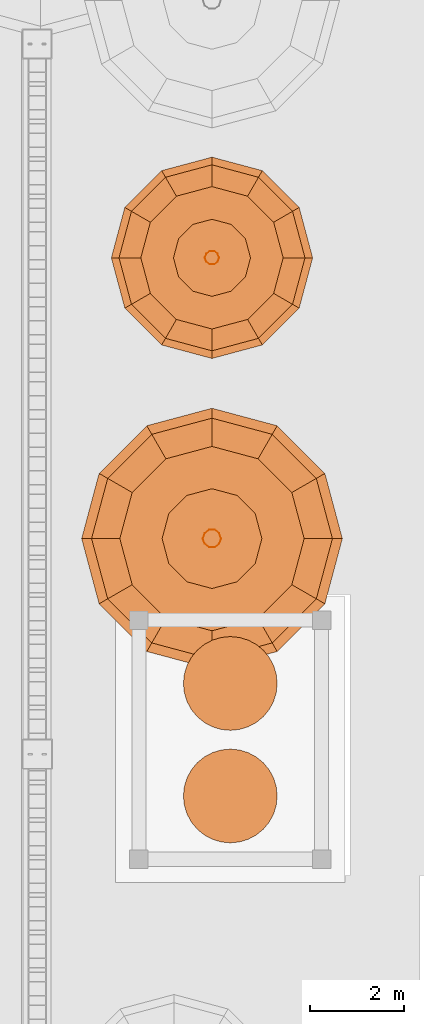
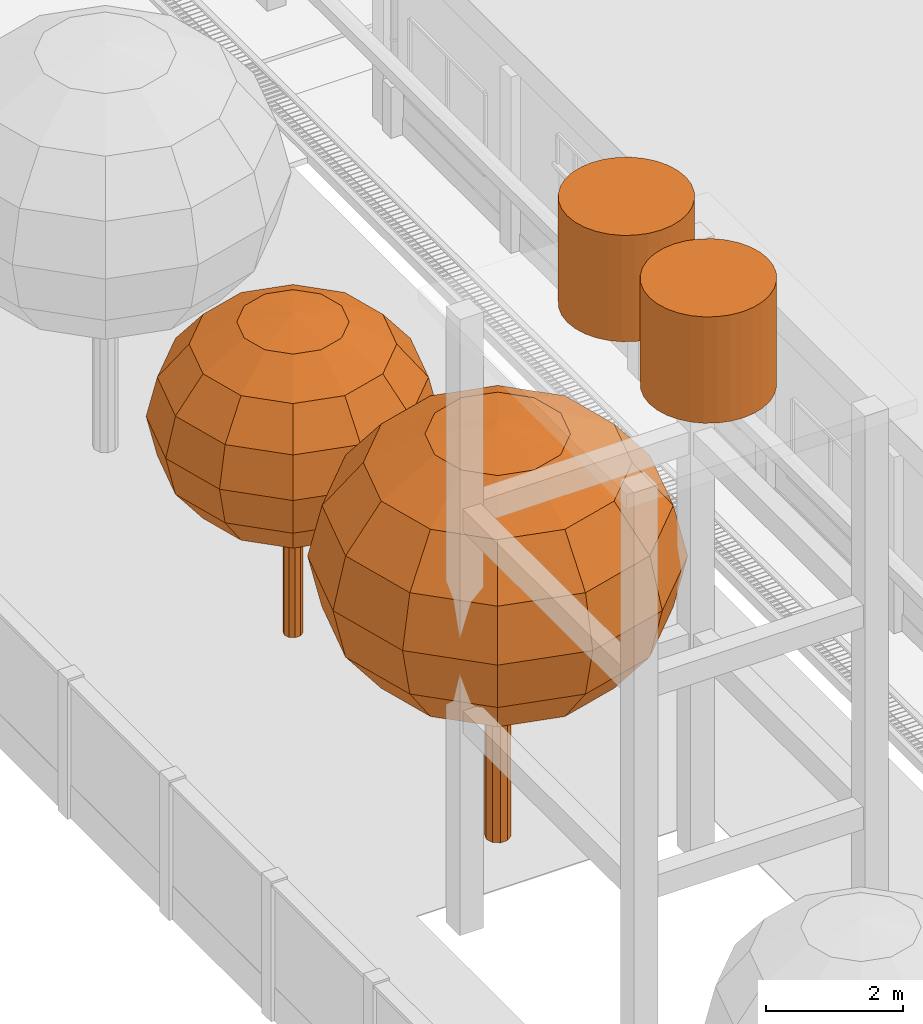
# One storey, part 147 of 166: 6 proxies.
"""IFC2X3 building model written with IfcOpenShell, lengths in metres."""

from ifc_helpers import new_model, si_unit, origin, origin_with_axes, place, context, subcontext, project, spatial, faceted_brep, element, save


model = new_model("IFC2X3")

# Units and contexts
model_context = context("Model", 3, precision=1e-05, world=origin_with_axes())
body_context = subcontext(model_context, "Body", "Model", "MODEL_VIEW")
ifc_project = project(units=[si_unit("LENGTHUNIT", "METRE"), si_unit("AREAUNIT", "SQUARE_METRE"), si_unit("VOLUMEUNIT", "CUBIC_METRE"), si_unit("PLANEANGLEUNIT", "RADIAN")], contexts=[model_context])

# Site, building, storey
site_placement = place(None, origin_with_axes())
site = spatial("IfcSite", under=ifc_project, at=site_placement, Name="Predio Los Mangos - Morales, San Martín", CompositionType="ELEMENT")
building_placement = place(site_placement, origin())
building = spatial("IfcBuilding", under=site, at=building_placement, Name="Hogar de Refugio Temporal", CompositionType="ELEMENT")
storey_placement = place(building_placement, origin())
storey = spatial("IfcBuildingStorey", under=building, at=storey_placement, Name="NIVEL 1 (NPT +0.00)", CompositionType="ELEMENT", Elevation=0.0)

# Proxies
proxy_1_placement = place(storey_placement, origin())
element("IfcBuildingElementProxy", 1, at=proxy_1_placement, inside=storey, Name="Cylinder", ObjectType="Elemento", context=body_context, shape_type="Brep", body=[
    faceted_brep([(6.55, 27.75, 11.25), (6.55, 27.75, 13.15), (6.7451, 27.7308, 13.15), (6.7451, 27.7308, 11.25), (6.9327, 27.6739, 13.15), (6.9327, 27.6739, 11.25), (7.1056, 27.5815, 13.15), (7.1056, 27.5815, 11.25), (7.2571, 27.4571, 13.15), (7.2571, 27.4571, 11.25), (7.3815, 27.3056, 13.15), (7.3815, 27.3056, 11.25), (7.4739, 27.1327, 13.15), (7.4739, 27.1327, 11.25), (7.5308, 26.9451, 13.15), (7.5308, 26.9451, 11.25), (7.55, 26.75, 13.15), (7.55, 26.75, 11.25), (7.5308, 26.5549, 13.15), (7.5308, 26.5549, 11.25), (7.4739, 26.3673, 13.15), (7.4739, 26.3673, 11.25), (7.3815, 26.1944, 13.15), (7.3815, 26.1944, 11.25), (7.2571, 26.0429, 13.15), (7.2571, 26.0429, 11.25), (7.1056, 25.9185, 13.15), (7.1056, 25.9185, 11.25), (6.9327, 25.8261, 13.15), (6.9327, 25.8261, 11.25), (6.7451, 25.7692, 13.15), (6.7451, 25.7692, 11.25), (6.55, 25.75, 13.15), (6.55, 25.75, 11.25), (6.3549, 25.7692, 13.15), (6.3549, 25.7692, 11.25), (6.1673, 25.8261, 13.15), (6.1673, 25.8261, 11.25), (5.9944, 25.9185, 13.15), (5.9944, 25.9185, 11.25), (5.8429, 26.0429, 13.15), (5.8429, 26.0429, 11.25), (5.7185, 26.1944, 13.15), (5.7185, 26.1944, 11.25), (5.6261, 26.3673, 13.15), (5.6261, 26.3673, 11.25), (5.5692, 26.5549, 13.15), (5.5692, 26.5549, 11.25), (5.55, 26.75, 13.15), (5.55, 26.75, 11.25), (5.5692, 26.9451, 13.15), (5.5692, 26.9451, 11.25), (5.6261, 27.1327, 13.15), (5.6261, 27.1327, 11.25), (5.7185, 27.3056, 13.15), (5.7185, 27.3056, 11.25), (5.8429, 27.4571, 13.15), (5.8429, 27.4571, 11.25), (5.9944, 27.5815, 13.15), (5.9944, 27.5815, 11.25), (6.1673, 27.6739, 13.15), (6.1673, 27.6739, 11.25), (6.3549, 27.7308, 13.15), (6.3549, 27.7308, 11.25)], [[[0, 1, 2, 3]], [[3, 2, 4, 5]], [[5, 4, 6, 7]], [[7, 6, 8, 9]], [[9, 8, 10, 11]], [[11, 10, 12, 13]], [[13, 12, 14, 15]], [[15, 14, 16, 17]], [[17, 16, 18, 19]], [[19, 18, 20, 21]], [[21, 20, 22, 23]], [[23, 22, 24, 25]], [[25, 24, 26, 27]], [[27, 26, 28, 29]], [[29, 28, 30, 31]], [[31, 30, 32, 33]], [[33, 32, 34, 35]], [[35, 34, 36, 37]], [[37, 36, 38, 39]], [[39, 38, 40, 41]], [[41, 40, 42, 43]], [[43, 42, 44, 45]], [[45, 44, 46, 47]], [[47, 46, 48, 49]], [[49, 48, 50, 51]], [[51, 50, 52, 53]], [[53, 52, 54, 55]], [[55, 54, 56, 57]], [[57, 56, 58, 59]], [[59, 58, 60, 61]], [[2, 1, 62, 60, 58, 56, 54, 52, 50, 48, 46, 44, 42, 40, 38, 36, 34, 32, 30, 28, 26, 24, 22, 20, 18, 16, 14, 12, 10, 8, 6, 4]], [[61, 60, 62, 63]], [[63, 62, 1, 0]], [[0, 3, 5, 7, 9, 11, 13, 15, 17, 19, 21, 23, 25, 27, 29, 31, 33, 35, 37, 39, 41, 43, 45, 47, 49, 51, 53, 55, 57, 59, 61, 63]]]),
])
proxy_2_placement = place(storey_placement, origin())
element("IfcBuildingElementProxy", 2, at=proxy_2_placement, inside=storey, Name="Cylinder", ObjectType="Elemento", context=body_context, shape_type="Brep", body=[
    faceted_brep([(6.55, 30.15, 11.25), (6.55, 30.15, 13.15), (6.7451, 30.1308, 13.15), (6.7451, 30.1308, 11.25), (6.9327, 30.0739, 13.15), (6.9327, 30.0739, 11.25), (7.1056, 29.9815, 13.15), (7.1056, 29.9815, 11.25), (7.2571, 29.8571, 13.15), (7.2571, 29.8571, 11.25), (7.3815, 29.7056, 13.15), (7.3815, 29.7056, 11.25), (7.4739, 29.5327, 13.15), (7.4739, 29.5327, 11.25), (7.5308, 29.3451, 13.15), (7.5308, 29.3451, 11.25), (7.55, 29.15, 13.15), (7.55, 29.15, 11.25), (7.5308, 28.9549, 13.15), (7.5308, 28.9549, 11.25), (7.4739, 28.7673, 13.15), (7.4739, 28.7673, 11.25), (7.3815, 28.5944, 13.15), (7.3815, 28.5944, 11.25), (7.2571, 28.4429, 13.15), (7.2571, 28.4429, 11.25), (7.1056, 28.3185, 13.15), (7.1056, 28.3185, 11.25), (6.9327, 28.2261, 13.15), (6.9327, 28.2261, 11.25), (6.7451, 28.1692, 13.15), (6.7451, 28.1692, 11.25), (6.55, 28.15, 13.15), (6.55, 28.15, 11.25), (6.3549, 28.1692, 13.15), (6.3549, 28.1692, 11.25), (6.1673, 28.2261, 13.15), (6.1673, 28.2261, 11.25), (5.9944, 28.3185, 13.15), (5.9944, 28.3185, 11.25), (5.8429, 28.4429, 13.15), (5.8429, 28.4429, 11.25), (5.7185, 28.5944, 13.15), (5.7185, 28.5944, 11.25), (5.6261, 28.7673, 13.15), (5.6261, 28.7673, 11.25), (5.5692, 28.9549, 13.15), (5.5692, 28.9549, 11.25), (5.55, 29.15, 13.15), (5.55, 29.15, 11.25), (5.5692, 29.3451, 13.15), (5.5692, 29.3451, 11.25), (5.6261, 29.5327, 13.15), (5.6261, 29.5327, 11.25), (5.7185, 29.7056, 13.15), (5.7185, 29.7056, 11.25), (5.8429, 29.8571, 13.15), (5.8429, 29.8571, 11.25), (5.9944, 29.9815, 13.15), (5.9944, 29.9815, 11.25), (6.1673, 30.0739, 13.15), (6.1673, 30.0739, 11.25), (6.3549, 30.1308, 13.15), (6.3549, 30.1308, 11.25)], [[[0, 1, 2, 3]], [[3, 2, 4, 5]], [[5, 4, 6, 7]], [[7, 6, 8, 9]], [[9, 8, 10, 11]], [[11, 10, 12, 13]], [[13, 12, 14, 15]], [[15, 14, 16, 17]], [[17, 16, 18, 19]], [[19, 18, 20, 21]], [[21, 20, 22, 23]], [[23, 22, 24, 25]], [[25, 24, 26, 27]], [[27, 26, 28, 29]], [[29, 28, 30, 31]], [[31, 30, 32, 33]], [[33, 32, 34, 35]], [[35, 34, 36, 37]], [[37, 36, 38, 39]], [[39, 38, 40, 41]], [[41, 40, 42, 43]], [[43, 42, 44, 45]], [[45, 44, 46, 47]], [[47, 46, 48, 49]], [[49, 48, 50, 51]], [[51, 50, 52, 53]], [[53, 52, 54, 55]], [[55, 54, 56, 57]], [[57, 56, 58, 59]], [[59, 58, 60, 61]], [[2, 1, 62, 60, 58, 56, 54, 52, 50, 48, 46, 44, 42, 40, 38, 36, 34, 32, 30, 28, 26, 24, 22, 20, 18, 16, 14, 12, 10, 8, 6, 4]], [[61, 60, 62, 63]], [[63, 62, 1, 0]], [[0, 3, 5, 7, 9, 11, 13, 15, 17, 19, 21, 23, 25, 27, 29, 31, 33, 35, 37, 39, 41, 43, 45, 47, 49, 51, 53, 55, 57, 59, 61, 63]]]),
])
proxy_3_placement = place(storey_placement, origin())
element("IfcBuildingElementProxy", 3, at=proxy_3_placement, inside=storey, Name="arbol_tronco", ObjectType="Árbol", context=body_context, shape_type="Brep", body=[
    faceted_brep([(6.3094, 38.23, 0.0), (6.2809, 38.3178, 0.0), (6.2809, 38.3178, 2.2407), (6.2062, 38.3721, 0.0), (6.2062, 38.3721, 2.2407), (6.1138, 38.3721, 0.0), (6.1138, 38.3721, 2.2407), (6.0391, 38.3178, 0.0), (6.0391, 38.3178, 2.2407), (6.0106, 38.23, 0.0), (6.0106, 38.23, 2.2407), (6.0391, 38.1422, 0.0), (6.0391, 38.1422, 2.2407), (6.1138, 38.0879, 0.0), (6.1138, 38.0879, 2.2407), (6.2062, 38.0879, 0.0), (6.2062, 38.0879, 2.2407), (6.2809, 38.1422, 0.0), (6.2809, 38.1422, 2.2407), (6.3094, 38.23, 2.2407)], [[[0, 1, 2]], [[1, 3, 4]], [[3, 5, 6]], [[5, 7, 8]], [[7, 9, 10]], [[9, 11, 12]], [[11, 13, 14]], [[13, 15, 16]], [[15, 17, 18]], [[17, 0, 19]], [[0, 2, 19]], [[1, 4, 2]], [[3, 6, 4]], [[5, 8, 6]], [[7, 10, 8]], [[9, 12, 10]], [[11, 14, 12]], [[13, 16, 14]], [[15, 18, 16]], [[17, 19, 18]]]),
])
proxy_4_placement = place(storey_placement, origin())
element("IfcBuildingElementProxy", 4, at=proxy_4_placement, inside=storey, Name="arbol_copa", ObjectType="Árbol", context=body_context, shape_type="Brep", body=[
    faceted_brep([(6.16, 38.23, 5.6765), (6.16, 38.23, 5.6765), (6.8717, 38.6409, 5.5376), (6.9818, 38.23, 5.5376), (6.16, 38.23, 5.6765), (6.5709, 38.9417, 5.5376), (6.16, 38.23, 5.6765), (6.16, 39.0518, 5.5376), (6.16, 38.23, 5.6765), (5.7491, 38.9417, 5.5376), (6.16, 38.23, 5.6765), (5.4483, 38.6409, 5.5376), (6.16, 38.23, 5.6765), (5.3382, 38.23, 5.5376), (6.16, 38.23, 5.6765), (5.4483, 37.8191, 5.5376), (6.16, 38.23, 5.6765), (5.7491, 37.5183, 5.5376), (6.16, 38.23, 5.6765), (6.16, 37.4082, 5.5376), (6.16, 38.23, 5.6765), (6.5709, 37.5183, 5.5376), (6.16, 38.23, 5.6765), (6.8717, 37.8191, 5.5376), (7.475, 38.9892, 5.1419), (7.6784, 38.23, 5.1419), (6.9192, 39.545, 5.1419), (6.16, 39.7484, 5.1419), (5.4008, 39.545, 5.1419), (4.845, 38.9892, 5.1419), (4.6416, 38.23, 5.1419), (4.845, 37.4708, 5.1419), (5.4008, 36.915, 5.1419), (6.16, 36.7116, 5.1419), (6.9192, 36.915, 5.1419), (7.475, 37.4708, 5.1419), (7.8781, 39.222, 4.5498), (8.1439, 38.23, 4.5498), (7.152, 39.9481, 4.5498), (6.16, 40.2139, 4.5498), (5.168, 39.9481, 4.5498), (4.4419, 39.222, 4.5498), (4.1761, 38.23, 4.5498), (4.4419, 37.238, 4.5498), (5.168, 36.5119, 4.5498), (6.16, 36.2461, 4.5498), (7.152, 36.5119, 4.5498), (7.8781, 37.238, 4.5498), (8.0197, 39.3037, 3.8513), (8.3074, 38.23, 3.8513), (7.2337, 40.0897, 3.8513), (6.16, 40.3774, 3.8513), (5.0863, 40.0897, 3.8513), (4.3003, 39.3037, 3.8513), (4.0126, 38.23, 3.8513), (4.3003, 37.1563, 3.8513), (5.0863, 36.3703, 3.8513), (6.16, 36.0826, 3.8513), (7.2337, 36.3703, 3.8513), (8.0197, 37.1563, 3.8513), (7.8781, 39.222, 3.1528), (8.1439, 38.23, 3.1528), (7.152, 39.9481, 3.1528), (6.16, 40.2139, 3.1528), (5.168, 39.9481, 3.1528), (4.4419, 39.222, 3.1528), (4.1761, 38.23, 3.1528), (4.4419, 37.238, 3.1528), (5.168, 36.5119, 3.1528), (6.16, 36.2461, 3.1528), (7.152, 36.5119, 3.1528), (7.8781, 37.238, 3.1528), (7.475, 38.9892, 2.5606), (7.6784, 38.23, 2.5606), (6.9192, 39.545, 2.5606), (6.16, 39.7484, 2.5606), (5.4008, 39.545, 2.5606), (4.845, 38.9892, 2.5606), (4.6416, 38.23, 2.5606), (4.845, 37.4708, 2.5606), (5.4008, 36.915, 2.5606), (6.16, 36.7116, 2.5606), (6.9192, 36.915, 2.5606), (7.475, 37.4708, 2.5606), (6.8717, 38.6409, 2.1649), (6.9818, 38.23, 2.1649), (6.5709, 38.9417, 2.1649), (6.16, 39.0518, 2.1649), (5.7491, 38.9417, 2.1649), (5.4483, 38.6409, 2.1649), (5.3382, 38.23, 2.1649), (5.4483, 37.8191, 2.1649), (5.7491, 37.5183, 2.1649), (6.16, 37.4082, 2.1649), (6.5709, 37.5183, 2.1649), (6.8717, 37.8191, 2.1649), (6.16, 38.23, 2.026), (6.16, 38.23, 2.026), (6.16, 38.23, 2.026), (6.16, 38.23, 2.026), (6.16, 38.23, 2.026), (6.16, 38.23, 2.026), (6.16, 38.23, 2.026), (6.16, 38.23, 2.026), (6.16, 38.23, 2.026), (6.16, 38.23, 2.026), (6.16, 38.23, 2.026), (6.16, 38.23, 2.026)], [[[0, 1, 2]], [[0, 2, 3]], [[1, 4, 5]], [[1, 5, 2]], [[4, 6, 7]], [[4, 7, 5]], [[6, 8, 9]], [[6, 9, 7]], [[8, 10, 11]], [[8, 11, 9]], [[10, 12, 13]], [[10, 13, 11]], [[12, 14, 15]], [[12, 15, 13]], [[14, 16, 17]], [[14, 17, 15]], [[16, 18, 19]], [[16, 19, 17]], [[18, 20, 21]], [[18, 21, 19]], [[20, 22, 23]], [[20, 23, 21]], [[22, 0, 3]], [[22, 3, 23]], [[3, 2, 24]], [[3, 24, 25]], [[2, 5, 26]], [[2, 26, 24]], [[5, 7, 27]], [[5, 27, 26]], [[7, 9, 28]], [[7, 28, 27]], [[9, 11, 29]], [[9, 29, 28]], [[11, 13, 30]], [[11, 30, 29]], [[13, 15, 31]], [[13, 31, 30]], [[15, 17, 32]], [[15, 32, 31]], [[17, 19, 33]], [[17, 33, 32]], [[19, 21, 34]], [[19, 34, 33]], [[21, 23, 35]], [[21, 35, 34]], [[23, 3, 25]], [[23, 25, 35]], [[25, 24, 36]], [[25, 36, 37]], [[24, 26, 38]], [[24, 38, 36]], [[26, 27, 39]], [[26, 39, 38]], [[27, 28, 40]], [[27, 40, 39]], [[28, 29, 41]], [[28, 41, 40]], [[29, 30, 42]], [[29, 42, 41]], [[30, 31, 43]], [[30, 43, 42]], [[31, 32, 44]], [[31, 44, 43]], [[32, 33, 45]], [[32, 45, 44]], [[33, 34, 46]], [[33, 46, 45]], [[34, 35, 47]], [[34, 47, 46]], [[35, 25, 37]], [[35, 37, 47]], [[37, 36, 48]], [[37, 48, 49]], [[36, 38, 50]], [[36, 50, 48]], [[38, 39, 51]], [[38, 51, 50]], [[39, 40, 52]], [[39, 52, 51]], [[40, 41, 53]], [[40, 53, 52]], [[41, 42, 54]], [[41, 54, 53]], [[42, 43, 55]], [[42, 55, 54]], [[43, 44, 56]], [[43, 56, 55]], [[44, 45, 57]], [[44, 57, 56]], [[45, 46, 58]], [[45, 58, 57]], [[46, 47, 59]], [[46, 59, 58]], [[47, 37, 49]], [[47, 49, 59]], [[49, 48, 60]], [[49, 60, 61]], [[48, 50, 62]], [[48, 62, 60]], [[50, 51, 63]], [[50, 63, 62]], [[51, 52, 64]], [[51, 64, 63]], [[52, 53, 65]], [[52, 65, 64]], [[53, 54, 66]], [[53, 66, 65]], [[54, 55, 67]], [[54, 67, 66]], [[55, 56, 68]], [[55, 68, 67]], [[56, 57, 69]], [[56, 69, 68]], [[57, 58, 70]], [[57, 70, 69]], [[58, 59, 71]], [[58, 71, 70]], [[59, 49, 61]], [[59, 61, 71]], [[61, 60, 72]], [[61, 72, 73]], [[60, 62, 74]], [[60, 74, 72]], [[62, 63, 75]], [[62, 75, 74]], [[63, 64, 76]], [[63, 76, 75]], [[64, 65, 77]], [[64, 77, 76]], [[65, 66, 78]], [[65, 78, 77]], [[66, 67, 79]], [[66, 79, 78]], [[67, 68, 80]], [[67, 80, 79]], [[68, 69, 81]], [[68, 81, 80]], [[69, 70, 82]], [[69, 82, 81]], [[70, 71, 83]], [[70, 83, 82]], [[71, 61, 73]], [[71, 73, 83]], [[73, 72, 84]], [[73, 84, 85]], [[72, 74, 86]], [[72, 86, 84]], [[74, 75, 87]], [[74, 87, 86]], [[75, 76, 88]], [[75, 88, 87]], [[76, 77, 89]], [[76, 89, 88]], [[77, 78, 90]], [[77, 90, 89]], [[78, 79, 91]], [[78, 91, 90]], [[79, 80, 92]], [[79, 92, 91]], [[80, 81, 93]], [[80, 93, 92]], [[81, 82, 94]], [[81, 94, 93]], [[82, 83, 95]], [[82, 95, 94]], [[83, 73, 85]], [[83, 85, 95]], [[85, 84, 96]], [[85, 96, 97]], [[84, 86, 98]], [[84, 98, 96]], [[86, 87, 99]], [[86, 99, 98]], [[87, 88, 100]], [[87, 100, 99]], [[88, 89, 101]], [[88, 101, 100]], [[89, 90, 102]], [[89, 102, 101]], [[90, 91, 103]], [[90, 103, 102]], [[91, 92, 104]], [[91, 104, 103]], [[92, 93, 105]], [[92, 105, 104]], [[93, 94, 106]], [[93, 106, 105]], [[94, 95, 107]], [[94, 107, 106]], [[95, 85, 97]], [[95, 97, 107]]]),
])
proxy_5_placement = place(storey_placement, origin())
element("IfcBuildingElementProxy", 5, at=proxy_5_placement, inside=storey, Name="arbol_tronco", ObjectType="Árbol", context=body_context, shape_type="Brep", body=[
    faceted_brep([(6.3534, 32.24, 0.0), (6.3165, 32.3537, 0.0), (6.3165, 32.3537, 2.9016), (6.2198, 32.424, 0.0), (6.2198, 32.424, 2.9016), (6.1002, 32.424, 0.0), (6.1002, 32.424, 2.9016), (6.0035, 32.3537, 0.0), (6.0035, 32.3537, 2.9016), (5.9666, 32.24, 0.0), (5.9666, 32.24, 2.9016), (6.0035, 32.1263, 0.0), (6.0035, 32.1263, 2.9016), (6.1002, 32.056, 0.0), (6.1002, 32.056, 2.9016), (6.2198, 32.056, 0.0), (6.2198, 32.056, 2.9016), (6.3165, 32.1263, 0.0), (6.3165, 32.1263, 2.9016), (6.3534, 32.24, 2.9016)], [[[0, 1, 2]], [[1, 3, 4]], [[3, 5, 6]], [[5, 7, 8]], [[7, 9, 10]], [[9, 11, 12]], [[11, 13, 14]], [[13, 15, 16]], [[15, 17, 18]], [[17, 0, 19]], [[0, 2, 19]], [[1, 4, 2]], [[3, 6, 4]], [[5, 8, 6]], [[7, 10, 8]], [[9, 12, 10]], [[11, 14, 12]], [[13, 16, 14]], [[15, 18, 16]], [[17, 19, 18]]]),
])
proxy_6_placement = place(storey_placement, origin())
element("IfcBuildingElementProxy", 6, at=proxy_6_placement, inside=storey, Name="arbol_copa", ObjectType="Árbol", context=body_context, shape_type="Brep", body=[
    faceted_brep([(6.16, 32.24, 7.3508), (6.16, 32.24, 7.3508), (7.0816, 32.7721, 7.1709), (7.2241, 32.24, 7.1709), (6.16, 32.24, 7.3508), (6.6921, 33.1616, 7.1709), (6.16, 32.24, 7.3508), (6.16, 33.3041, 7.1709), (6.16, 32.24, 7.3508), (5.6279, 33.1616, 7.1709), (6.16, 32.24, 7.3508), (5.2384, 32.7721, 7.1709), (6.16, 32.24, 7.3508), (5.0959, 32.24, 7.1709), (6.16, 32.24, 7.3508), (5.2384, 31.7079, 7.1709), (6.16, 32.24, 7.3508), (5.6279, 31.3184, 7.1709), (6.16, 32.24, 7.3508), (6.16, 31.1759, 7.1709), (6.16, 32.24, 7.3508), (6.6921, 31.3184, 7.1709), (6.16, 32.24, 7.3508), (7.0816, 31.7079, 7.1709), (7.8628, 33.2231, 6.6585), (8.1263, 32.24, 6.6585), (7.1431, 33.9428, 6.6585), (6.16, 34.2063, 6.6585), (5.1769, 33.9428, 6.6585), (4.4572, 33.2231, 6.6585), (4.1937, 32.24, 6.6585), (4.4572, 31.2569, 6.6585), (5.1769, 30.5372, 6.6585), (6.16, 30.2737, 6.6585), (7.1431, 30.5372, 6.6585), (7.8628, 31.2569, 6.6585), (8.3849, 33.5245, 5.8917), (8.7291, 32.24, 5.8917), (7.4445, 34.4649, 5.8917), (6.16, 34.8091, 5.8917), (4.8755, 34.4649, 5.8917), (3.9351, 33.5245, 5.8917), (3.5909, 32.24, 5.8917), (3.9351, 30.9555, 5.8917), (4.8755, 30.0151, 5.8917), (6.16, 29.6709, 5.8917), (7.4445, 30.0151, 5.8917), (8.3849, 30.9555, 5.8917), (8.5682, 33.6304, 4.9872), (8.9407, 32.24, 4.9872), (7.5504, 34.6482, 4.9872), (6.16, 35.0207, 4.9872), (4.7696, 34.6482, 4.9872), (3.7518, 33.6304, 4.9872), (3.3793, 32.24, 4.9872), (3.7518, 30.8496, 4.9872), (4.7696, 29.8318, 4.9872), (6.16, 29.4593, 4.9872), (7.5504, 29.8318, 4.9872), (8.5682, 30.8496, 4.9872), (8.3849, 33.5245, 4.0827), (8.7291, 32.24, 4.0827), (7.4445, 34.4649, 4.0827), (6.16, 34.8091, 4.0827), (4.8755, 34.4649, 4.0827), (3.9351, 33.5245, 4.0827), (3.5909, 32.24, 4.0827), (3.9351, 30.9555, 4.0827), (4.8755, 30.0151, 4.0827), (6.16, 29.6709, 4.0827), (7.4445, 30.0151, 4.0827), (8.3849, 30.9555, 4.0827), (7.8628, 33.2231, 3.3159), (8.1263, 32.24, 3.3159), (7.1431, 33.9428, 3.3159), (6.16, 34.2063, 3.3159), (5.1769, 33.9428, 3.3159), (4.4572, 33.2231, 3.3159), (4.1937, 32.24, 3.3159), (4.4572, 31.2569, 3.3159), (5.1769, 30.5372, 3.3159), (6.16, 30.2737, 3.3159), (7.1431, 30.5372, 3.3159), (7.8628, 31.2569, 3.3159), (7.0816, 32.7721, 2.8035), (7.2241, 32.24, 2.8035), (6.6921, 33.1616, 2.8035), (6.16, 33.3041, 2.8035), (5.6279, 33.1616, 2.8035), (5.2384, 32.7721, 2.8035), (5.0959, 32.24, 2.8035), (5.2384, 31.7079, 2.8035), (5.6279, 31.3184, 2.8035), (6.16, 31.1759, 2.8035), (6.6921, 31.3184, 2.8035), (7.0816, 31.7079, 2.8035), (6.16, 32.24, 2.6236), (6.16, 32.24, 2.6236), (6.16, 32.24, 2.6236), (6.16, 32.24, 2.6236), (6.16, 32.24, 2.6236), (6.16, 32.24, 2.6236), (6.16, 32.24, 2.6236), (6.16, 32.24, 2.6236), (6.16, 32.24, 2.6236), (6.16, 32.24, 2.6236), (6.16, 32.24, 2.6236), (6.16, 32.24, 2.6236)], [[[0, 1, 2]], [[0, 2, 3]], [[1, 4, 5]], [[1, 5, 2]], [[4, 6, 7]], [[4, 7, 5]], [[6, 8, 9]], [[6, 9, 7]], [[8, 10, 11]], [[8, 11, 9]], [[10, 12, 13]], [[10, 13, 11]], [[12, 14, 15]], [[12, 15, 13]], [[14, 16, 17]], [[14, 17, 15]], [[16, 18, 19]], [[16, 19, 17]], [[18, 20, 21]], [[18, 21, 19]], [[20, 22, 23]], [[20, 23, 21]], [[22, 0, 3]], [[22, 3, 23]], [[3, 2, 24]], [[3, 24, 25]], [[2, 5, 26]], [[2, 26, 24]], [[5, 7, 27]], [[5, 27, 26]], [[7, 9, 28]], [[7, 28, 27]], [[9, 11, 29]], [[9, 29, 28]], [[11, 13, 30]], [[11, 30, 29]], [[13, 15, 31]], [[13, 31, 30]], [[15, 17, 32]], [[15, 32, 31]], [[17, 19, 33]], [[17, 33, 32]], [[19, 21, 34]], [[19, 34, 33]], [[21, 23, 35]], [[21, 35, 34]], [[23, 3, 25]], [[23, 25, 35]], [[25, 24, 36]], [[25, 36, 37]], [[24, 26, 38]], [[24, 38, 36]], [[26, 27, 39]], [[26, 39, 38]], [[27, 28, 40]], [[27, 40, 39]], [[28, 29, 41]], [[28, 41, 40]], [[29, 30, 42]], [[29, 42, 41]], [[30, 31, 43]], [[30, 43, 42]], [[31, 32, 44]], [[31, 44, 43]], [[32, 33, 45]], [[32, 45, 44]], [[33, 34, 46]], [[33, 46, 45]], [[34, 35, 47]], [[34, 47, 46]], [[35, 25, 37]], [[35, 37, 47]], [[37, 36, 48]], [[37, 48, 49]], [[36, 38, 50]], [[36, 50, 48]], [[38, 39, 51]], [[38, 51, 50]], [[39, 40, 52]], [[39, 52, 51]], [[40, 41, 53]], [[40, 53, 52]], [[41, 42, 54]], [[41, 54, 53]], [[42, 43, 55]], [[42, 55, 54]], [[43, 44, 56]], [[43, 56, 55]], [[44, 45, 57]], [[44, 57, 56]], [[45, 46, 58]], [[45, 58, 57]], [[46, 47, 59]], [[46, 59, 58]], [[47, 37, 49]], [[47, 49, 59]], [[49, 48, 60]], [[49, 60, 61]], [[48, 50, 62]], [[48, 62, 60]], [[50, 51, 63]], [[50, 63, 62]], [[51, 52, 64]], [[51, 64, 63]], [[52, 53, 65]], [[52, 65, 64]], [[53, 54, 66]], [[53, 66, 65]], [[54, 55, 67]], [[54, 67, 66]], [[55, 56, 68]], [[55, 68, 67]], [[56, 57, 69]], [[56, 69, 68]], [[57, 58, 70]], [[57, 70, 69]], [[58, 59, 71]], [[58, 71, 70]], [[59, 49, 61]], [[59, 61, 71]], [[61, 60, 72]], [[61, 72, 73]], [[60, 62, 74]], [[60, 74, 72]], [[62, 63, 75]], [[62, 75, 74]], [[63, 64, 76]], [[63, 76, 75]], [[64, 65, 77]], [[64, 77, 76]], [[65, 66, 78]], [[65, 78, 77]], [[66, 67, 79]], [[66, 79, 78]], [[67, 68, 80]], [[67, 80, 79]], [[68, 69, 81]], [[68, 81, 80]], [[69, 70, 82]], [[69, 82, 81]], [[70, 71, 83]], [[70, 83, 82]], [[71, 61, 73]], [[71, 73, 83]], [[73, 72, 84]], [[73, 84, 85]], [[72, 74, 86]], [[72, 86, 84]], [[74, 75, 87]], [[74, 87, 86]], [[75, 76, 88]], [[75, 88, 87]], [[76, 77, 89]], [[76, 89, 88]], [[77, 78, 90]], [[77, 90, 89]], [[78, 79, 91]], [[78, 91, 90]], [[79, 80, 92]], [[79, 92, 91]], [[80, 81, 93]], [[80, 93, 92]], [[81, 82, 94]], [[81, 94, 93]], [[82, 83, 95]], [[82, 95, 94]], [[83, 73, 85]], [[83, 85, 95]], [[85, 84, 96]], [[85, 96, 97]], [[84, 86, 98]], [[84, 98, 96]], [[86, 87, 99]], [[86, 99, 98]], [[87, 88, 100]], [[87, 100, 99]], [[88, 89, 101]], [[88, 101, 100]], [[89, 90, 102]], [[89, 102, 101]], [[90, 91, 103]], [[90, 103, 102]], [[91, 92, 104]], [[91, 104, 103]], [[92, 93, 105]], [[92, 105, 104]], [[93, 94, 106]], [[93, 106, 105]], [[94, 95, 107]], [[94, 107, 106]], [[95, 85, 97]], [[95, 97, 107]]]),
])

save(model, "model.ifc")
